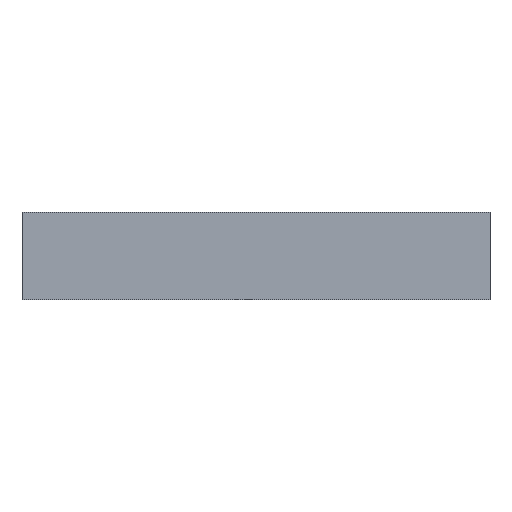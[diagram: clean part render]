
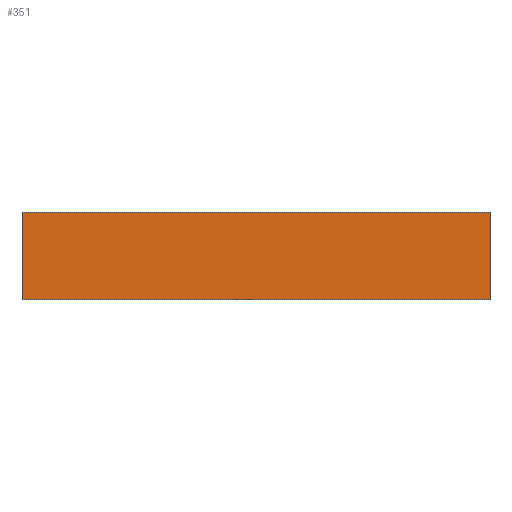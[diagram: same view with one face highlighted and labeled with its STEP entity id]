
A CAD part, left-side view. The second image highlights one B-rep face of the part: STEP entity #351.
In plain terms, the highlighted planar face has unit normal (-1, 0, 0).
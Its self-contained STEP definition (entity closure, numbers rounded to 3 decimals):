
#21 = EDGE_CURVE('',#22,#24,#26,.T.);
#22 = VERTEX_POINT('',#23);
#23 = CARTESIAN_POINT('',(-0.8,3.2,0.));
#24 = VERTEX_POINT('',#25);
#25 = CARTESIAN_POINT('',(-0.8,-3.2,0.));
#26 = SURFACE_CURVE('',#27,(#31,#43),.PCURVE_S1.);
#27 = LINE('',#28,#29);
#28 = CARTESIAN_POINT('',(-0.8,3.2,0.));
#29 = VECTOR('',#30,1.);
#30 = DIRECTION('',(0.,-1.,0.));
#31 = PCURVE('',#32,#37);
#32 = PLANE('',#33);
#33 = AXIS2_PLACEMENT_3D('',#34,#35,#36);
#34 = CARTESIAN_POINT('',(22.61,0.96,0.));
#35 = DIRECTION('',(0.,0.,1.));
#36 = DIRECTION('',(1.,0.,-0.));
#37 = DEFINITIONAL_REPRESENTATION('',(#38),#42);
#38 = LINE('',#39,#40);
#39 = CARTESIAN_POINT('',(-23.41,2.24));
#40 = VECTOR('',#41,1.);
#41 = DIRECTION('',(0.,-1.));
#42 = ( GEOMETRIC_REPRESENTATION_CONTEXT(2) 
PARAMETRIC_REPRESENTATION_CONTEXT() REPRESENTATION_CONTEXT('2D SPACE',''
  ) );
#43 = PCURVE('',#44,#49);
#44 = PLANE('',#45);
#45 = AXIS2_PLACEMENT_3D('',#46,#47,#48);
#46 = CARTESIAN_POINT('',(-0.8,3.2,0.));
#47 = DIRECTION('',(1.,0.,-0.));
#48 = DIRECTION('',(0.,-1.,0.));
#49 = DEFINITIONAL_REPRESENTATION('',(#50),#54);
#50 = LINE('',#51,#52);
#51 = CARTESIAN_POINT('',(0.,0.));
#52 = VECTOR('',#53,1.);
#53 = DIRECTION('',(1.,0.));
#54 = ( GEOMETRIC_REPRESENTATION_CONTEXT(2) 
PARAMETRIC_REPRESENTATION_CONTEXT() REPRESENTATION_CONTEXT('2D SPACE',''
  ) );
#72 = PLANE('',#73);
#73 = AXIS2_PLACEMENT_3D('',#74,#75,#76);
#74 = CARTESIAN_POINT('',(-0.8,-3.2,0.));
#75 = DIRECTION('',(0.,1.,0.));
#76 = DIRECTION('',(1.,0.,0.));
#340 = PLANE('',#341);
#341 = AXIS2_PLACEMENT_3D('',#342,#343,#344);
#342 = CARTESIAN_POINT('',(5.6,3.2,0.));
#343 = DIRECTION('',(0.,-1.,0.));
#344 = DIRECTION('',(-1.,0.,0.));
#351 = ADVANCED_FACE('',(#352),#44,.F.);
#352 = FACE_BOUND('',#353,.F.);
#353 = EDGE_LOOP('',(#354,#377,#405,#426));
#354 = ORIENTED_EDGE('',*,*,#355,.T.);
#355 = EDGE_CURVE('',#22,#356,#358,.T.);
#356 = VERTEX_POINT('',#357);
#357 = CARTESIAN_POINT('',(-0.8,3.2,1.2));
#358 = SURFACE_CURVE('',#359,(#363,#370),.PCURVE_S1.);
#359 = LINE('',#360,#361);
#360 = CARTESIAN_POINT('',(-0.8,3.2,0.));
#361 = VECTOR('',#362,1.);
#362 = DIRECTION('',(0.,0.,1.));
#363 = PCURVE('',#44,#364);
#364 = DEFINITIONAL_REPRESENTATION('',(#365),#369);
#365 = LINE('',#366,#367);
#366 = CARTESIAN_POINT('',(0.,0.));
#367 = VECTOR('',#368,1.);
#368 = DIRECTION('',(0.,-1.));
#369 = ( GEOMETRIC_REPRESENTATION_CONTEXT(2) 
PARAMETRIC_REPRESENTATION_CONTEXT() REPRESENTATION_CONTEXT('2D SPACE',''
  ) );
#370 = PCURVE('',#340,#371);
#371 = DEFINITIONAL_REPRESENTATION('',(#372),#376);
#372 = LINE('',#373,#374);
#373 = CARTESIAN_POINT('',(6.4,0.));
#374 = VECTOR('',#375,1.);
#375 = DIRECTION('',(0.,-1.));
#376 = ( GEOMETRIC_REPRESENTATION_CONTEXT(2) 
PARAMETRIC_REPRESENTATION_CONTEXT() REPRESENTATION_CONTEXT('2D SPACE',''
  ) );
#377 = ORIENTED_EDGE('',*,*,#378,.T.);
#378 = EDGE_CURVE('',#356,#379,#381,.T.);
#379 = VERTEX_POINT('',#380);
#380 = CARTESIAN_POINT('',(-0.8,-3.2,1.2));
#381 = SURFACE_CURVE('',#382,(#386,#393),.PCURVE_S1.);
#382 = LINE('',#383,#384);
#383 = CARTESIAN_POINT('',(-0.8,3.2,1.2));
#384 = VECTOR('',#385,1.);
#385 = DIRECTION('',(0.,-1.,0.));
#386 = PCURVE('',#44,#387);
#387 = DEFINITIONAL_REPRESENTATION('',(#388),#392);
#388 = LINE('',#389,#390);
#389 = CARTESIAN_POINT('',(0.,-1.2));
#390 = VECTOR('',#391,1.);
#391 = DIRECTION('',(1.,0.));
#392 = ( GEOMETRIC_REPRESENTATION_CONTEXT(2) 
PARAMETRIC_REPRESENTATION_CONTEXT() REPRESENTATION_CONTEXT('2D SPACE',''
  ) );
#393 = PCURVE('',#394,#399);
#394 = PLANE('',#395);
#395 = AXIS2_PLACEMENT_3D('',#396,#397,#398);
#396 = CARTESIAN_POINT('',(2.4,0.,1.2));
#397 = DIRECTION('',(0.,0.,1.));
#398 = DIRECTION('',(1.,0.,-0.));
#399 = DEFINITIONAL_REPRESENTATION('',(#400),#404);
#400 = LINE('',#401,#402);
#401 = CARTESIAN_POINT('',(-3.2,3.2));
#402 = VECTOR('',#403,1.);
#403 = DIRECTION('',(0.,-1.));
#404 = ( GEOMETRIC_REPRESENTATION_CONTEXT(2) 
PARAMETRIC_REPRESENTATION_CONTEXT() REPRESENTATION_CONTEXT('2D SPACE',''
  ) );
#405 = ORIENTED_EDGE('',*,*,#406,.F.);
#406 = EDGE_CURVE('',#24,#379,#407,.T.);
#407 = SURFACE_CURVE('',#408,(#412,#419),.PCURVE_S1.);
#408 = LINE('',#409,#410);
#409 = CARTESIAN_POINT('',(-0.8,-3.2,0.));
#410 = VECTOR('',#411,1.);
#411 = DIRECTION('',(0.,0.,1.));
#412 = PCURVE('',#44,#413);
#413 = DEFINITIONAL_REPRESENTATION('',(#414),#418);
#414 = LINE('',#415,#416);
#415 = CARTESIAN_POINT('',(6.4,0.));
#416 = VECTOR('',#417,1.);
#417 = DIRECTION('',(0.,-1.));
#418 = ( GEOMETRIC_REPRESENTATION_CONTEXT(2) 
PARAMETRIC_REPRESENTATION_CONTEXT() REPRESENTATION_CONTEXT('2D SPACE',''
  ) );
#419 = PCURVE('',#72,#420);
#420 = DEFINITIONAL_REPRESENTATION('',(#421),#425);
#421 = LINE('',#422,#423);
#422 = CARTESIAN_POINT('',(0.,0.));
#423 = VECTOR('',#424,1.);
#424 = DIRECTION('',(0.,-1.));
#425 = ( GEOMETRIC_REPRESENTATION_CONTEXT(2) 
PARAMETRIC_REPRESENTATION_CONTEXT() REPRESENTATION_CONTEXT('2D SPACE',''
  ) );
#426 = ORIENTED_EDGE('',*,*,#21,.F.);
